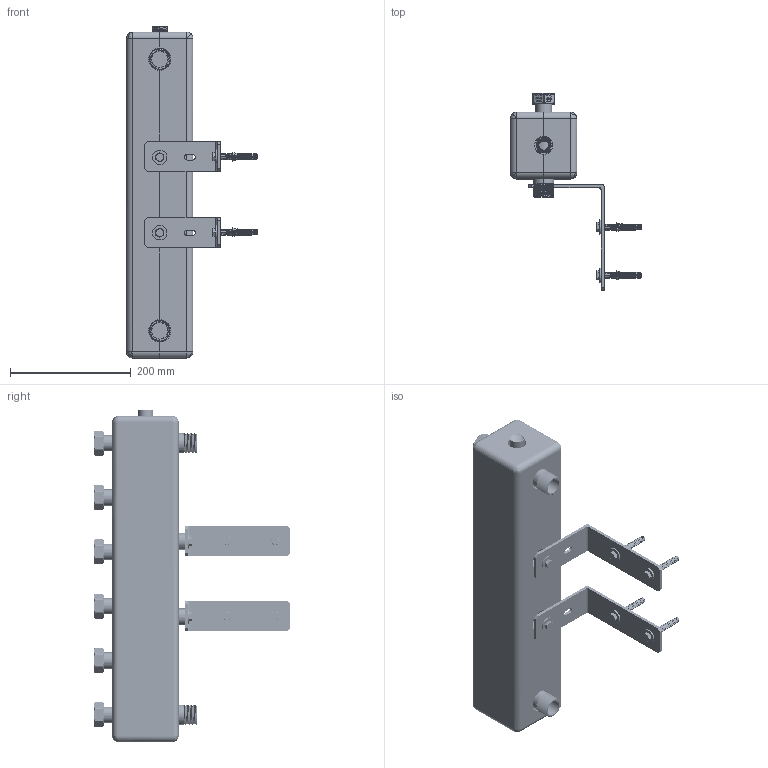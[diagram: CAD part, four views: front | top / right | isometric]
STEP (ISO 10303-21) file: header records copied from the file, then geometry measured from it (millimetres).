
FILE_DESCRIPTION (( 'STEP AP214' ), '1' );
FILE_NAME ('KSV_90_3_HV_Rozdzielacz_ze_sprzeglem_hydraulicznym_dla_3_obiegów_pompowych_9023300_0_3D_AFRISO.STEP', '2024-02-06T09:57:36', ( '' ), ( '' ), 'SwSTEP 2.0', 'SolidWorks 2022', '' );
FILE_SCHEMA (( 'AUTOMOTIVE_DESIGN' ));
Length unit declared in the file: millimetre
Products named in the file (24): KSV_90_3_HV_Rozdzielacz_ze_sprzeglem_hydraulicznym_dla_3_obiegów_pompowych_9023300_0_3D_AFRISO; 08_018_007; 08_024_006; 08_001_033_SESTAVLJEN_ASM; 08_024_014; 08_018_005; 08_018_014_AF1; DIN571_8X60_CUZN; 08_018_014_AF0; SCREW_DIN_933-M8X25-8_8-A; 08_024_300_IZOLACIJA_ASM; 08_024_013; 08_024_010; ZIDNI_VLOZEK_10; 08_001_006_2; 08_016_008; 08_001_033; 08_024_011; 08_001_054; 08_013_014; GUMA_NOSILCA_M8; DIN9021-8; 08_024_012; 08_018_003
Assembly tree (48 placements, depth 3):
  KSV_90_3_HV_Rozdzielacz_ze_sprzeglem_hydraulicznym_dla_3_obiegów_pompowych_9023300_0_3D_AFRISO
    08_024_012
    08_024_013
    08_024_014
    08_024_006
    08_013_014  x2
    08_024_010
    08_016_008
    08_018_003  x3
    08_024_011  x3
    08_018_007  x6
    08_001_054  x5
    08_024_300_IZOLACIJA_ASM
      08_018_014_AF0
      08_018_014_AF1
    08_001_006_2  x2
    08_001_033_SESTAVLJEN_ASM  x2
      08_001_033
      DIN9021-8
      SCREW_DIN_933-M8X25-8_8-A
      GUMA_NOSILCA_M8
      DIN571_8X60_CUZN
      ZIDNI_VLOZEK_10
    08_018_005  x6
Bounding box: 216.91 x 325.83 x 550 mm (x, y, z)
Volume: 5143917.6 mm3; surface area: 1136927.3 mm2
Topology: 47 solids, 63 shells, 4221 faces, 11948 edges, 7859 vertices
Faces by surface type: cylinder 1859, plane 1230, cone 858, bspline 274
Entity records: 68433 total; most frequent: CARTESIAN_POINT 27705, ORIENTED_EDGE 7948, DIRECTION 7290, EDGE_CURVE 3978, AXIS2_PLACEMENT_3D 2847, VERTEX_POINT 2619, LINE 1596, VECTOR 1596
